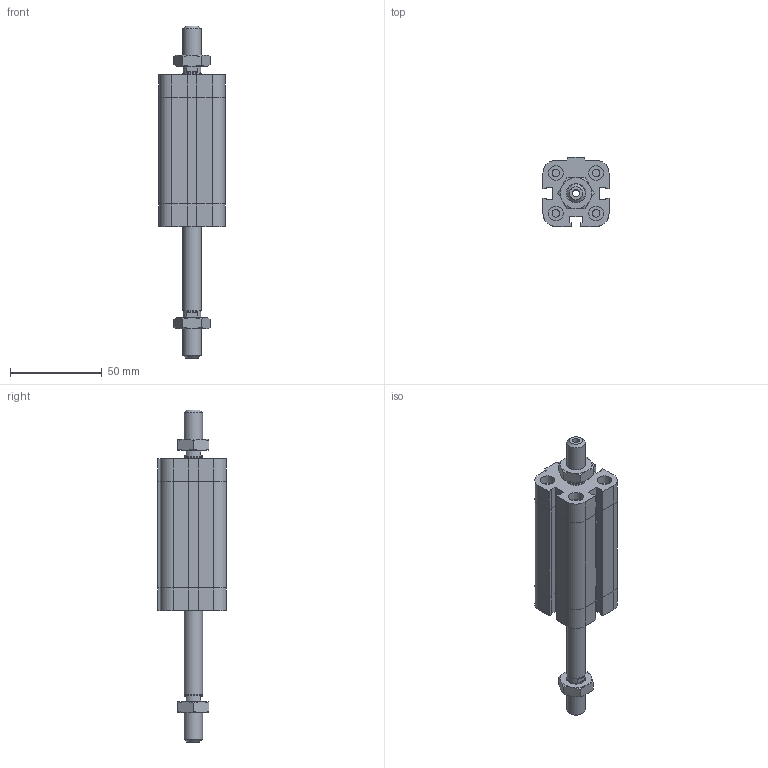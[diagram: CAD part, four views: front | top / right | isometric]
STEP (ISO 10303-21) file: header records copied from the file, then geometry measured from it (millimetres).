
FILE_DESCRIPTION((''),'2;1');
FILE_NAME('I:\Area Tecnica\Disegni\VARIE-3D\Componenti\EUROPE\15##_###_####_05_#\1581_20_0045_05_1.iam.stp','2009-04-20T15:00:00',(''),(''),'Autodesk Inventor 2009','Autodesk Inventor 2009','');
FILE_SCHEMA(('AUTOMOTIVE_DESIGN { 1 0 10303 214 1 1 1 1 }'));
Length unit declared in the file: millimetre
Products named in the file (4): 1581_20_0045_05_1; 1581_20_0045_03_1_C; 1561_20_0045_05_1_S; DBFM10
Assembly tree (4 placements, depth 2):
  1581_20_0045_05_1
    1581_20_0045_03_1_C
    1561_20_0045_05_1_S
    DBFM10  x2
Bounding box: 36 x 37.5 x 181 mm (x, y, z)
Volume: 100996.7 mm3; surface area: 31719.8 mm2
Topology: 4 solids, 4 shells, 223 faces, 486 edges, 291 vertices
Faces by surface type: plane 129, cone 35, bspline 34, cylinder 25
Full cylindrical faces by diameter (mm): 4.134 x4, 7.9 x1, 8 x4, 9.8 x2, 10 x2
Entity records: 5497 total; most frequent: CARTESIAN_POINT 1244, DIRECTION 806, ORIENTED_EDGE 776, EDGE_CURVE 388, AXIS2_PLACEMENT_3D 274, EDGE_LOOP 262, VECTOR 258, LINE 258
